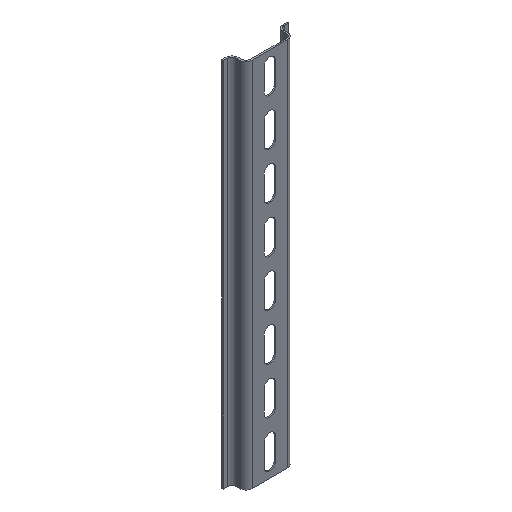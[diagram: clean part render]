
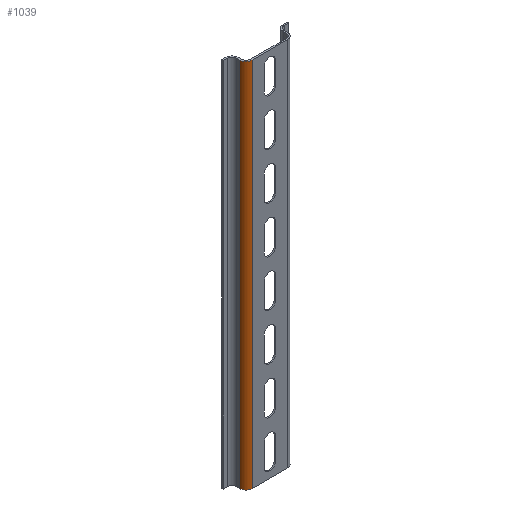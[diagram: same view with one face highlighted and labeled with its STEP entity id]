
A CAD part, isometric view. The second image highlights one B-rep face of the part: STEP entity #1039.
In plain terms, the highlighted cylindrical face has radius 3.3 mm (diameter 6.6 mm), a partial arc.
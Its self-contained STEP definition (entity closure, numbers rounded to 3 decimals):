
#45 = CARTESIAN_POINT ( 'NONE',  ( -12.9, 2.5, 200. ) ) ;
#429 = VECTOR ( 'NONE', #933, 1000. ) ;
#435 = CYLINDRICAL_SURFACE ( 'NONE', #958, 3.3 ) ;
#454 = EDGE_CURVE ( 'NONE', #2087, #1357, #1903, .T. ) ;
#486 = FACE_OUTER_BOUND ( 'NONE', #1126, .T. ) ;
#674 = CARTESIAN_POINT ( 'NONE',  ( -9.6, 2.5, 0. ) ) ;
#733 = DIRECTION ( 'NONE',  ( 1., 0., 0. ) ) ;
#852 = CIRCLE ( 'NONE', #1190, 3.3 ) ;
#897 = EDGE_CURVE ( 'NONE', #2087, #983, #919, .T. ) ;
#919 = CIRCLE ( 'NONE', #1101, 3.3 ) ;
#933 = DIRECTION ( 'NONE',  ( 0., 0., -1. ) ) ;
#958 = AXIS2_PLACEMENT_3D ( 'NONE', #1506, #1527, #1316 ) ;
#983 = VERTEX_POINT ( 'NONE', #45 ) ;
#999 = LINE ( 'NONE', #1719, #1061 ) ;
#1039 = ADVANCED_FACE ( 'NONE', ( #486 ), #435, .T. ) ;
#1061 = VECTOR ( 'NONE', #1713, 1000. ) ;
#1101 = AXIS2_PLACEMENT_3D ( 'NONE', #1677, #1260, #733 ) ;
#1112 = CARTESIAN_POINT ( 'NONE',  ( -9.6, -0.8, 200. ) ) ;
#1126 = EDGE_LOOP ( 'NONE', ( #1464, #2214, #1588, #1957 ) ) ;
#1190 = AXIS2_PLACEMENT_3D ( 'NONE', #674, #1814, #2205 ) ;
#1213 = CARTESIAN_POINT ( 'NONE',  ( -9.6, -0.8, 0. ) ) ;
#1260 = DIRECTION ( 'NONE',  ( 0., 0., -1. ) ) ;
#1311 = CARTESIAN_POINT ( 'NONE',  ( -9.6, -0.8, 200. ) ) ;
#1316 = DIRECTION ( 'NONE',  ( -1., 0., 0. ) ) ;
#1357 = VERTEX_POINT ( 'NONE', #1213 ) ;
#1464 = ORIENTED_EDGE ( 'NONE', *, *, #2347, .F. ) ;
#1506 = CARTESIAN_POINT ( 'NONE',  ( -9.6, 2.5, 200. ) ) ;
#1527 = DIRECTION ( 'NONE',  ( 0., 0., -1. ) ) ;
#1588 = ORIENTED_EDGE ( 'NONE', *, *, #897, .T. ) ;
#1633 = EDGE_CURVE ( 'NONE', #983, #2010, #999, .T. ) ;
#1677 = CARTESIAN_POINT ( 'NONE',  ( -9.6, 2.5, 200. ) ) ;
#1697 = CARTESIAN_POINT ( 'NONE',  ( -12.9, 2.5, 0. ) ) ;
#1713 = DIRECTION ( 'NONE',  ( 0., 0., -1. ) ) ;
#1719 = CARTESIAN_POINT ( 'NONE',  ( -12.9, 2.5, 200. ) ) ;
#1814 = DIRECTION ( 'NONE',  ( 0., 0., -1. ) ) ;
#1903 = LINE ( 'NONE', #1112, #429 ) ;
#1957 = ORIENTED_EDGE ( 'NONE', *, *, #1633, .T. ) ;
#2010 = VERTEX_POINT ( 'NONE', #1697 ) ;
#2087 = VERTEX_POINT ( 'NONE', #1311 ) ;
#2205 = DIRECTION ( 'NONE',  ( 1., 0., 0. ) ) ;
#2214 = ORIENTED_EDGE ( 'NONE', *, *, #454, .F. ) ;
#2347 = EDGE_CURVE ( 'NONE', #1357, #2010, #852, .T. ) ;
